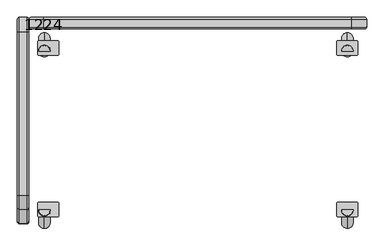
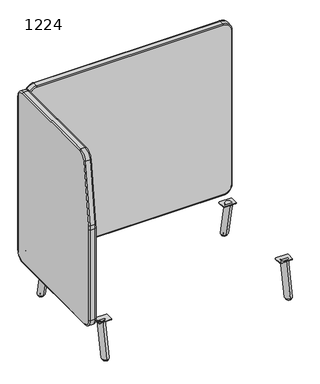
"""IFC4 building model written with IfcOpenShell, lengths in millimetres: furniture geometry, Laguna-Modular-Hideout-ERG : 1224."""

from ifc_helpers import new_model, si_unit, point, frame, frame_2d, origin, place, context, project, spatial, polyline, circle_curve, ellipse_curve, trimmed, segment, composite_curve, outline, extrude, source, transform, mapped, element, save
from ifc_brep_helpers import plane_surface, cylinder_surface, revolved_surface, advanced_brep


def furniture_1224_862a0234(model_context):
    return source(origin(), model_context, "Body", "SolidModel", [
        advanced_brep(
        [(-4630.9921763, 1222.7258502, 203.2), (-4630.9921763, 1272.2558502, 252.73), (-4624.6421763, 1265.9058502, 252.73), (-4624.6421763, 1222.7258502, 209.55), (-4656.3921763, 1222.7258502, 203.2), (-4656.3921763, 1272.2558502, 252.73), (-4662.7421763, 1222.7258502, 209.55), (-4662.7421763, 1265.9058502, 252.73), (-4624.6421763, 638.2210502, 209.55), (-4630.9921763, 638.2210502, 203.2), (-4656.3921763, 638.2210502, 203.2), (-4662.7421763, 638.2210502, 209.55), (-4630.9921763, 683.6397434, 1189.5820944), (-4624.6421763, 683.6397434, 1183.2320944), (-4624.6421763, 1222.7258502, 1183.2320944), (-4630.9921763, 1222.7258502, 1189.5820944), (-4656.3921763, 1222.7258502, 1189.5820944), (-4656.3921763, 683.6397434, 1189.5820944), (-4662.7421763, 1222.7258502, 1183.2320944), (-4662.7421763, 683.6397434, 1183.2320944), (-4624.6421763, 1265.9058502, 1140.0520944), (-4630.9921763, 1272.2558502, 1140.0520944), (-4656.3921763, 1272.2558502, 1140.0520944), (-4662.7421763, 1265.9058502, 1140.0520944), (-4624.6421763, 595.9808502, 251.7902), (-4630.9921763, 589.6308502, 251.7902), (-4656.3921763, 589.6308502, 251.7902), (-4662.7421763, 595.9808502, 251.7902), (-4624.6421763, 595.9808502, 775.6528209), (-4630.9921763, 589.6308502, 775.6528209), (-4656.3921763, 589.6308502, 775.6528209), (-4662.7421763, 595.9808502, 775.6528209), (-4630.9921763, 591.2362338, 800.9039123), (-4624.6421763, 597.5351069, 800.0997374), (-4624.6421763, 641.7396393, 1146.3412658), (-4630.9921763, 635.4407662, 1147.1454407), (-4656.3921763, 635.4407662, 1147.1454407), (-4656.3921763, 591.2362338, 800.9039123), (-4662.7421763, 641.7396393, 1146.3412658), (-4662.7421763, 597.5351069, 800.0997374)],
        [
            (0, 1, circle_curve(frame((-4630.9921763, 1222.7258502, 252.73), z_axis=(1.0, 0.0, 0.0), x_axis=(0.0, 1.0, 0.0)), 49.53)),
            (1, 2, circle_curve(frame((-4630.9921763, 1265.9058502, 252.73), z_axis=(0.0, 0.0, -1.0), x_axis=(0.0, 1.0, 0.0)), 6.35)),
            (2, 3, circle_curve(frame((-4624.6421763, 1222.7258502, 252.73), z_axis=(-1.0, 0.0, 0.0), x_axis=(0.0, 1.0, 0.0)), 43.18)),
            (3, 0, circle_curve(frame((-4630.9921763, 1222.7258502, 209.55), z_axis=(0.0, 1.0, 0.0), x_axis=(0.0, 0.0, -1.0)), 6.35)),
            (0, 4),
            (4, 5, circle_curve(frame((-4656.3921763, 1222.7258502, 252.73), z_axis=(1.0, 0.0, 0.0), x_axis=(0.0, 1.0, 0.0)), 49.53)),
            (5, 1),
            (4, 6, circle_curve(frame((-4656.3921763, 1222.7258502, 209.55), z_axis=(0.0, 1.0, 0.0), x_axis=(0.0, 0.0, -1.0)), 6.35)),
            (6, 7, circle_curve(frame((-4662.7421763, 1222.7258502, 252.73), z_axis=(1.0, 0.0, 0.0), x_axis=(0.0, 1.0, 0.0)), 43.18)),
            (7, 5, circle_curve(frame((-4656.3921763, 1265.9058502, 252.73), z_axis=(0.0, 0.0, -1.0), x_axis=(0.0, 1.0, 0.0)), 6.35)),
            (3, 8),
            (8, 9, circle_curve(frame((-4630.9921763, 638.2210502, 209.55), z_axis=(0.0, 1.0, 0.0), x_axis=(0.0, 0.0, -1.0)), 6.35)),
            (9, 0),
            (9, 10),
            (10, 4),
            (10, 11, circle_curve(frame((-4656.3921763, 638.2210502, 209.55), z_axis=(0.0, 1.0, 0.0), x_axis=(0.0, 0.0, -1.0)), 6.35)),
            (11, 6),
            (12, 13, circle_curve(frame((-4630.9921763, 683.6397434, 1183.2320944), z_axis=(0.0, 1.0, 0.0), x_axis=(0.0, 0.0, 1.0)), 6.35)),
            (13, 14),
            (14, 15, circle_curve(frame((-4630.9921763, 1222.7258502, 1183.2320944), z_axis=(0.0, -1.0, 0.0), x_axis=(0.0, 0.0, 1.0)), 6.35)),
            (15, 12),
            (15, 16),
            (16, 17),
            (17, 12),
            (16, 18, circle_curve(frame((-4656.3921763, 1222.7258502, 1183.2320944), z_axis=(0.0, -1.0, 0.0), x_axis=(0.0, 0.0, 1.0)), 6.35)),
            (18, 19),
            (19, 17, circle_curve(frame((-4656.3921763, 683.6397434, 1183.2320944), z_axis=(0.0, 1.0, 0.0), x_axis=(0.0, 0.0, 1.0)), 6.35)),
            (14, 20, circle_curve(frame((-4624.6421763, 1222.7258502, 1140.0520944), z_axis=(-1.0, 0.0, 0.0), x_axis=(0.0, 0.0, 1.0)), 43.18)),
            (20, 21, circle_curve(frame((-4630.9921763, 1265.9058502, 1140.0520944), z_axis=(0.0, 0.0, 1.0), x_axis=(0.0, 1.0, 0.0)), 6.35)),
            (21, 15, circle_curve(frame((-4630.9921763, 1222.7258502, 1140.0520944), z_axis=(1.0, 0.0, 0.0), x_axis=(0.0, 0.0, 1.0)), 49.53)),
            (21, 22),
            (22, 16, circle_curve(frame((-4656.3921763, 1222.7258502, 1140.0520944), z_axis=(1.0, 0.0, 0.0), x_axis=(0.0, 0.0, 1.0)), 49.53)),
            (22, 23, circle_curve(frame((-4656.3921763, 1265.9058502, 1140.0520944), z_axis=(0.0, 0.0, 1.0), x_axis=(0.0, 1.0, 0.0)), 6.35)),
            (23, 18, circle_curve(frame((-4662.7421763, 1222.7258502, 1140.0520944), z_axis=(1.0, 0.0, 0.0), x_axis=(0.0, 0.0, 1.0)), 43.18)),
            (1, 21),
            (20, 2),
            (5, 22),
            (7, 23),
            (8, 24, circle_curve(frame((-4624.6421763, 638.2210502, 251.7902), z_axis=(-1.0, 0.0, 0.0), x_axis=(0.0, 0.0, -1.0)), 42.2402)),
            (24, 25, circle_curve(frame((-4630.9921763, 595.9808502, 251.7902), z_axis=(0.0, 0.0, -1.0), x_axis=(0.0, -1.0, 0.0)), 6.35)),
            (25, 9, circle_curve(frame((-4630.9921763, 638.2210502, 251.7902), z_axis=(1.0, 0.0, 0.0), x_axis=(0.0, 0.0, -1.0)), 48.5902)),
            (25, 26),
            (26, 10, circle_curve(frame((-4656.3921763, 638.2210502, 251.7902), z_axis=(1.0, 0.0, 0.0), x_axis=(0.0, 0.0, -1.0)), 48.5902)),
            (26, 27, circle_curve(frame((-4656.3921763, 595.9808502, 251.7902), z_axis=(0.0, 0.0, -1.0), x_axis=(0.0, -1.0, 0.0)), 6.35)),
            (27, 11, circle_curve(frame((-4662.7421763, 638.2210502, 251.7902), z_axis=(1.0, 0.0, 0.0), x_axis=(0.0, 0.0, -1.0)), 42.2402)),
            (24, 28),
            (28, 29, circle_curve(frame((-4630.9921763, 595.9808502, 775.6528209), z_axis=(0.0, 0.0, -1.0), x_axis=(0.0, -1.0, 0.0)), 6.35)),
            (29, 25),
            (29, 30),
            (30, 26),
            (30, 31, circle_curve(frame((-4656.3921763, 595.9808502, 775.6528209), z_axis=(0.0, 0.0, -1.0), x_axis=(0.0, -1.0, 0.0)), 6.35)),
            (31, 27),
            (32, 33, circle_curve(frame((-4630.9921763, 597.5351069, 800.0997374), z_axis=(0.0, 0.12664171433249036, 0.9919485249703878), x_axis=(0.0, -0.9919485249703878, 0.12664171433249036)), 6.35)),
            (33, 34),
            (34, 35, circle_curve(frame((-4630.9921763, 641.7396393, 1146.3412658), z_axis=(0.0, -0.12664171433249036, -0.9919485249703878), x_axis=(0.0, -0.9919485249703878, 0.12664171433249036)), 6.35)),
            (35, 32),
            (35, 36),
            (36, 37),
            (37, 32),
            (36, 38, circle_curve(frame((-4656.3921763, 641.7396393, 1146.3412658), z_axis=(0.0, -0.12664171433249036, -0.9919485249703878), x_axis=(0.0, -0.9919485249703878, 0.12664171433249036)), 6.35)),
            (38, 39),
            (39, 37, circle_curve(frame((-4656.3921763, 597.5351069, 800.0997374), z_axis=(0.0, 0.12664171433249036, 0.9919485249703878), x_axis=(0.0, -0.9919485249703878, 0.12664171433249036)), 6.35)),
            (28, 33, circle_curve(frame((-4624.6421763, 789.0208502, 775.6528209), z_axis=(-1.0, 0.0, 0.0), x_axis=(0.0, -1.0, 0.0)), 193.04)),
            (32, 29, circle_curve(frame((-4630.9921763, 789.0208502, 775.6528209), z_axis=(1.0, 0.0, 0.0), x_axis=(0.0, -1.0, 0.0)), 199.39)),
            (37, 30, circle_curve(frame((-4656.3921763, 789.0208502, 775.6528209), z_axis=(1.0, 0.0, 0.0), x_axis=(0.0, -1.0, 0.0)), 199.39)),
            (39, 31, circle_curve(frame((-4662.7421763, 789.0208502, 775.6528209), z_axis=(1.0, 0.0, 0.0), x_axis=(0.0, -1.0, 0.0)), 193.04)),
            (13, 34, circle_curve(frame((-4624.6421763, 683.6397434, 1140.9918944), z_axis=(1.0, 0.0, 0.0), x_axis=(0.0, -0.9919485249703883, 0.12664171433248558)), 42.2402)),
            (12, 35, circle_curve(frame((-4630.9921763, 683.6397434, 1140.9918944), z_axis=(1.0, 0.0, 0.0), x_axis=(0.0, -0.9919485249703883, 0.12664171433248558)), 48.5902)),
            (17, 36, circle_curve(frame((-4656.3921763, 683.6397434, 1140.9918944), z_axis=(1.0, 0.0, 0.0), x_axis=(0.0, -0.9919485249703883, 0.12664171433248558)), 48.5902)),
            (19, 38, circle_curve(frame((-4662.7421763, 683.6397434, 1140.9918944), z_axis=(1.0, 0.0, 0.0), x_axis=(0.0, -0.9919485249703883, 0.12664171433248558)), 42.2402)),
        ],
        [
            revolved_surface(trimmed(ellipse_curve(frame((-4630.9921763, 1265.9058502, 252.73), z_axis=(0.0, 0.0, 1.0), x_axis=(0.0, 1.0, 0.0)), 6.35, 6.35), [point((-4624.6421763, 1265.9058502, 252.73))], [point((-4630.9921763, 1272.2558502, 252.73))], True, "CARTESIAN"), (-4662.7421763, 1222.7258502, 252.73), (-1.0, 0.0, 0.0)),
            cylinder_surface(frame((-4662.7421763, 1222.7258502, 252.73), z_axis=(-1.0, 0.0, 0.0), x_axis=(0.0, 1.0, 0.0)), 49.53),
            revolved_surface(trimmed(ellipse_curve(frame((-4656.3921763, 1265.9058502, 252.73), z_axis=(0.0, 0.0, 1.0), x_axis=(0.0, 1.0, 0.0)), 6.35, 6.35), [point((-4656.3921763, 1272.2558502, 252.73))], [point((-4662.7421763, 1265.9058502, 252.73))], True, "CARTESIAN"), (-4662.7421763, 1222.7258502, 252.73), (-1.0, 0.0, 0.0)),
            cylinder_surface(frame((-4630.9921763, 1222.7258502, 209.55), z_axis=(0.0, 1.0, 0.0), x_axis=(0.0, 0.0, -1.0)), 6.35),
            plane_surface(frame((-4630.9921763, 1222.7258502, 203.2), z_axis=(0.0, 0.0, -1.0), x_axis=(0.0, -1.0, 0.0))),
            cylinder_surface(frame((-4656.3921763, 1222.7258502, 209.55), z_axis=(0.0, 1.0, 0.0), x_axis=(0.0, 0.0, -1.0)), 6.35),
            cylinder_surface(frame((-4630.9921763, 683.6397434, 1183.2320944), z_axis=(0.0, -1.0, 0.0), x_axis=(0.0, 0.0, 1.0)), 6.35),
            plane_surface(frame((-4630.9921763, 683.6397434, 1189.5820944), z_axis=(0.0, 0.0, 1.0), x_axis=(0.0, 1.0, 0.0))),
            cylinder_surface(frame((-4656.3921763, 683.6397434, 1183.2320944), z_axis=(0.0, -1.0, 0.0), x_axis=(0.0, 0.0, 1.0)), 6.35),
            revolved_surface(trimmed(ellipse_curve(frame((-4630.9921763, 1222.7258502, 1183.2320944), z_axis=(0.0, -1.0, 0.0), x_axis=(0.0, 0.0, 1.0)), 6.35, 6.35), [point((-4624.6421763, 1222.7258502, 1183.2320944))], [point((-4630.9921763, 1222.7258502, 1189.5820944))], True, "CARTESIAN"), (-4662.7421763, 1222.7258502, 1140.0520944), (-1.0, 0.0, 0.0)),
            cylinder_surface(frame((-4662.7421763, 1222.7258502, 1140.0520944), z_axis=(-1.0, 0.0, 0.0), x_axis=(0.0, 0.0, 1.0)), 49.53),
            revolved_surface(trimmed(ellipse_curve(frame((-4656.3921763, 1222.7258502, 1183.2320944), z_axis=(0.0, -1.0, 0.0), x_axis=(0.0, 0.0, 1.0)), 6.35, 6.35), [point((-4656.3921763, 1222.7258502, 1189.5820944))], [point((-4662.7421763, 1222.7258502, 1183.2320944))], True, "CARTESIAN"), (-4662.7421763, 1222.7258502, 1140.0520944), (-1.0, 0.0, 0.0)),
            cylinder_surface(frame((-4630.9921763, 1265.9058502, 1140.0520944), z_axis=(0.0, 0.0, 1.0), x_axis=(0.0, 1.0, 0.0)), 6.35),
            plane_surface(frame((-4630.9921763, 1272.2558502, 1140.0520944), z_axis=(0.0, 1.0, 0.0), x_axis=(0.0, 0.0, -1.0))),
            cylinder_surface(frame((-4656.3921763, 1265.9058502, 1140.0520944), z_axis=(0.0, 0.0, 1.0), x_axis=(0.0, 1.0, 0.0)), 6.35),
            revolved_surface(trimmed(ellipse_curve(frame((-4630.9921763, 638.2210502, 209.55), z_axis=(0.0, 1.0, 0.0), x_axis=(0.0, 0.0, -1.0)), 6.35, 6.35), [point((-4624.6421763, 638.2210502, 209.55))], [point((-4630.9921763, 638.2210502, 203.2))], True, "CARTESIAN"), (-4662.7421763, 638.2210502, 251.7902), (-1.0, 0.0, 0.0)),
            cylinder_surface(frame((-4662.7421763, 638.2210502, 251.7902), z_axis=(-1.0, 0.0, 0.0), x_axis=(0.0, 0.0, -1.0)), 48.5902),
            revolved_surface(trimmed(ellipse_curve(frame((-4656.3921763, 638.2210502, 209.55), z_axis=(0.0, 1.0, 0.0), x_axis=(0.0, 0.0, -1.0)), 6.35, 6.35), [point((-4656.3921763, 638.2210502, 203.2))], [point((-4662.7421763, 638.2210502, 209.55))], True, "CARTESIAN"), (-4662.7421763, 638.2210502, 251.7902), (-1.0, 0.0, 0.0)),
            cylinder_surface(frame((-4630.9921763, 595.9808502, 251.7902), z_axis=(0.0, 0.0, -1.0), x_axis=(0.0, -1.0, 0.0)), 6.35),
            plane_surface(frame((-4630.9921763, 589.6308502, 251.7902), z_axis=(0.0, -1.0, 0.0), x_axis=(0.0, 0.0, 1.0))),
            cylinder_surface(frame((-4656.3921763, 595.9808502, 251.7902), z_axis=(0.0, 0.0, -1.0), x_axis=(0.0, -1.0, 0.0)), 6.35),
            cylinder_surface(frame((-4630.9921763, 597.5351069, 800.0997374), z_axis=(0.0, -0.12664171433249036, -0.9919485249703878), x_axis=(0.0, -0.9919485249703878, 0.12664171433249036)), 6.35),
            plane_surface(frame((-4630.9921763, 591.2362338, 800.9039123), z_axis=(0.0, -0.9919485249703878, 0.1266417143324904), x_axis=(0.0, 0.1266417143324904, 0.9919485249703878))),
            cylinder_surface(frame((-4656.3921763, 597.5351069, 800.0997374), z_axis=(0.0, -0.12664171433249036, -0.9919485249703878), x_axis=(0.0, -0.9919485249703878, 0.12664171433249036)), 6.35),
            revolved_surface(trimmed(ellipse_curve(frame((-4630.9921763, 595.9808502, 775.6528209), z_axis=(0.0, 0.0, -1.0), x_axis=(0.0, -1.0, 0.0)), 6.35, 6.35), [point((-4624.6421763, 595.9808502, 775.6528209))], [point((-4630.9921763, 589.6308502, 775.6528209))], True, "CARTESIAN"), (-4662.7421763, 789.0208502, 775.6528209), (-1.0, 0.0, 0.0)),
            cylinder_surface(frame((-4662.7421763, 789.0208502, 775.6528209), z_axis=(-1.0, 0.0, 0.0), x_axis=(0.0, -1.0, 0.0)), 199.39),
            revolved_surface(trimmed(ellipse_curve(frame((-4656.3921763, 595.9808502, 775.6528209), z_axis=(0.0, 0.0, -1.0), x_axis=(0.0, -1.0, 0.0)), 6.35, 6.35), [point((-4656.3921763, 589.6308502, 775.6528209))], [point((-4662.7421763, 595.9808502, 775.6528209))], True, "CARTESIAN"), (-4662.7421763, 789.0208502, 775.6528209), (-1.0, 0.0, 0.0)),
            plane_surface(frame((-4624.6421763, 683.6397434, 1140.9918944), z_axis=(1.0, 0.0, 0.0), x_axis=(0.0, -0.9919485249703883, 0.12664171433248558))),
            revolved_surface(trimmed(ellipse_curve(frame((-4630.9921763, 641.7396393, 1146.3412658), z_axis=(0.0, -0.12664171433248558, -0.9919485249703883), x_axis=(0.0, -0.9919485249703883, 0.12664171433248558)), 6.35, 6.35), [point((-4624.6421763, 641.7396393, 1146.3412658))], [point((-4630.9921763, 635.4407662, 1147.1454407))], True, "CARTESIAN"), (-4662.7421763, 683.6397434, 1140.9918944), (-1.0, 0.0, 0.0)),
            cylinder_surface(frame((-4662.7421763, 683.6397434, 1140.9918944), z_axis=(-1.0, 0.0, 0.0), x_axis=(0.0, -0.9919485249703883, 0.12664171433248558)), 48.5902),
            revolved_surface(trimmed(ellipse_curve(frame((-4656.3921763, 641.7396393, 1146.3412658), z_axis=(0.0, -0.12664171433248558, -0.9919485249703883), x_axis=(0.0, -0.9919485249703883, 0.12664171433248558)), 6.35, 6.35), [point((-4656.3921763, 635.4407662, 1147.1454407))], [point((-4662.7421763, 641.7396393, 1146.3412658))], True, "CARTESIAN"), (-4662.7421763, 683.6397434, 1140.9918944), (-1.0, 0.0, 0.0)),
            plane_surface(frame((-4662.7421763, 683.6397434, 1140.9918944), z_axis=(-1.0, 0.0, 0.0), x_axis=(0.0, -0.9919485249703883, 0.12664171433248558))),
        ],
        [
            (0, [[1, 2, 3, 4]]),
            (1, [[-1, 5, 6, 7]]),
            (2, [[-6, 8, 9, 10]]),
            (3, [[-4, 11, 12, 13]]),
            (4, [[-5, -13, 14, 15]]),
            (5, [[-8, -15, 16, 17]]),
            (6, [[18, 19, 20, 21]]),
            (7, [[-21, 22, 23, 24]]),
            (8, [[-23, 25, 26, 27]]),
            (9, [[-20, 28, 29, 30]]),
            (10, [[-22, -30, 31, 32]]),
            (11, [[-25, -32, 33, 34]]),
            (12, [[-2, 35, -29, 36]]),
            (13, [[-7, 37, -31, -35]]),
            (14, [[-10, 38, -33, -37]]),
            (15, [[-12, 39, 40, 41]]),
            (16, [[-14, -41, 42, 43]]),
            (17, [[-16, -43, 44, 45]]),
            (18, [[-40, 46, 47, 48]]),
            (19, [[-42, -48, 49, 50]]),
            (20, [[-44, -50, 51, 52]]),
            (21, [[53, 54, 55, 56]]),
            (22, [[-56, 57, 58, 59]]),
            (23, [[-58, 60, 61, 62]]),
            (24, [[-47, 63, -53, 64]]),
            (25, [[-49, -64, -59, 65]]),
            (26, [[-51, -65, -62, 66]]),
            (27, [[-3, -36, -28, -19, 67, -54, -63, -46, -39, -11]]),
            (28, [[-18, 68, -55, -67]]),
            (29, [[-24, 69, -57, -68]]),
            (30, [[-27, 70, -60, -69]]),
            (31, [[-9, -17, -45, -52, -66, -61, -70, -26, -34, -38]]),
        ],
    ),
        advanced_brep(
        [(-3570.5421763, 1179.9236711, 207.1607177), (-3570.5421763, 1142.6562475, 199.2392823), (-3570.5421763, 1182.8462897, 10.16), (-3570.5421763, 1221.7974663, 10.16)],
        [
            (0, 1, circle_curve(frame((-3570.5421763, 1161.2899593, 203.2), z_axis=(0.0, -0.2079116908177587, 0.9781476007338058), x_axis=(0.0, -0.9781476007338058, -0.2079116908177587)), 19.05)),
            (1, 0, circle_curve(frame((-3570.5421763, 1161.2899593, 203.2), z_axis=(0.0, -0.2079116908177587, 0.9781476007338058), x_axis=(0.0, -0.9781476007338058, -0.2079116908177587)), 19.05)),
            (1, 2),
            (2, 3, ellipse_curve(frame((-3570.5421763, 1202.321878, 10.16), z_axis=(0.0, 0.0, 1.0), x_axis=(0.0, -0.9999999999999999, 0.0)), 19.4755883, 19.05)),
            (3, 0),
            (3, 2, ellipse_curve(frame((-3570.5421763, 1202.321878, 10.16), z_axis=(0.0, 0.0, 1.0), x_axis=(0.0, -0.9999999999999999, 0.0)), 19.4755883, 19.05)),
        ],
        [
            plane_surface(frame((-3570.5421763, 1161.2899593, 203.2), z_axis=(0.0, -0.2079116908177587, 0.9781476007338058), x_axis=(-1.0, 0.0, 0.0))),
            cylinder_surface(frame((-3570.5421763, 1161.2899593, 203.2), z_axis=(0.0, -0.2079116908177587, 0.9781476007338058), x_axis=(0.0, -0.9781476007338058, -0.2079116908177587)), 19.05),
            plane_surface(frame((-4662.7421763, 1308.7683502, 10.16), z_axis=(0.0, 0.0, -1.0), x_axis=(-1.0, 0.0, 0.0))),
        ],
        [
            (0, [[1, 2]]),
            (1, [[-2, 3, 4, 5]]),
            (1, [[-1, -5, 6, -3]]),
            (2, [[-4, -6]]),
        ],
    ),
        advanced_brep(
        [(-3570.5421763, 652.9523278, 199.2392823), (-3570.5421763, 615.6849042, 207.1607177), (-3570.5421763, 612.7622857, 10.16), (-3570.5421763, 573.811109, 10.16)],
        [
            (0, 1, circle_curve(frame((-3570.5421763, 634.318616, 203.2), z_axis=(0.0, 0.20791169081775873, 0.9781476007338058), x_axis=(0.0, -0.9781476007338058, 0.20791169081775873)), 19.05)),
            (1, 0, circle_curve(frame((-3570.5421763, 634.318616, 203.2), z_axis=(0.0, 0.20791169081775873, 0.9781476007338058), x_axis=(0.0, -0.9781476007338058, 0.20791169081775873)), 19.05)),
            (0, 2),
            (2, 3, ellipse_curve(frame((-3570.5421763, 593.2866973, 10.16), z_axis=(0.0, 0.0, 1.0), x_axis=(0.0, 1.0, 0.0)), 19.4755883, 19.05)),
            (3, 1),
            (3, 2, ellipse_curve(frame((-3570.5421763, 593.2866973, 10.16), z_axis=(0.0, 0.0, 1.0), x_axis=(0.0, 1.0, 0.0)), 19.4755883, 19.05)),
        ],
        [
            plane_surface(frame((-3570.5421763, 634.318616, 203.2), z_axis=(0.0, 0.20791169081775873, 0.9781476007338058), x_axis=(-1.0, 0.0, 0.0))),
            cylinder_surface(frame((-3570.5421763, 634.318616, 203.2), z_axis=(0.0, 0.20791169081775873, 0.9781476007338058), x_axis=(0.0, -0.9781476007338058, 0.20791169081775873)), 19.05),
            plane_surface(frame((-4662.7421763, 1308.7683502, 10.16), z_axis=(0.0, 0.0, -1.0), x_axis=(-1.0, 0.0, 0.0))),
        ],
        [
            (0, [[1, 2]]),
            (1, [[-1, 3, 4, 5]]),
            (1, [[-2, -5, 6, -3]]),
            (2, [[-4, -6]]),
        ],
    ),
        advanced_brep(
        [(-4573.8421763, 1142.6562475, 199.2392823), (-4573.8421763, 1179.9236711, 207.1607177), (-4573.8421763, 1221.7974663, 10.16), (-4573.8421763, 1182.8462897, 10.16)],
        [
            (0, 1, circle_curve(frame((-4573.8421763, 1161.2899593, 203.2), z_axis=(0.0, -0.20791169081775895, 0.9781476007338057), x_axis=(0.0, 0.9781476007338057, 0.20791169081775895)), 19.05)),
            (1, 0, circle_curve(frame((-4573.8421763, 1161.2899593, 203.2), z_axis=(0.0, -0.20791169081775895, 0.9781476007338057), x_axis=(0.0, 0.9781476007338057, 0.20791169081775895)), 19.05)),
            (1, 2),
            (2, 3, ellipse_curve(frame((-4573.8421763, 1202.321878, 10.16), z_axis=(0.0, 0.0, 1.0), x_axis=(0.0, -1.0, 0.0)), 19.4755883, 19.05)),
            (3, 0),
            (3, 2, ellipse_curve(frame((-4573.8421763, 1202.321878, 10.16), z_axis=(0.0, 0.0, 1.0), x_axis=(0.0, -1.0, 0.0)), 19.4755883, 19.05)),
        ],
        [
            plane_surface(frame((-4561.1421763, 1161.2899593, 203.2), z_axis=(0.0, -0.20791169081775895, 0.9781476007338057), x_axis=(1.0, 0.0, 0.0))),
            cylinder_surface(frame((-4573.8421763, 1161.2899593, 203.2), z_axis=(0.0, -0.20791169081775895, 0.9781476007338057), x_axis=(0.0, 0.9781476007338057, 0.20791169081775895)), 19.05),
            plane_surface(frame((-4662.7421763, 1308.7683502, 10.16), z_axis=(0.0, 0.0, -1.0), x_axis=(-1.0, 0.0, 0.0))),
        ],
        [
            (0, [[1, 2]]),
            (1, [[-2, 3, 4, 5]]),
            (1, [[-1, -5, 6, -3]]),
            (2, [[-4, -6]]),
        ],
    ),
        advanced_brep(
        [(-4573.8421763, 615.6849042, 207.1607177), (-4573.8421763, 652.9523278, 199.2392823), (-4573.8421763, 573.811109, 10.16), (-4573.8421763, 612.7622857, 10.16)],
        [
            (0, 1, circle_curve(frame((-4573.8421763, 634.318616, 203.2), z_axis=(0.0, 0.20791169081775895, 0.9781476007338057), x_axis=(0.0, 0.9781476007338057, -0.20791169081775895)), 19.05)),
            (1, 0, circle_curve(frame((-4573.8421763, 634.318616, 203.2), z_axis=(0.0, 0.20791169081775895, 0.9781476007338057), x_axis=(0.0, 0.9781476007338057, -0.20791169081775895)), 19.05)),
            (0, 2),
            (2, 3, ellipse_curve(frame((-4573.8421763, 593.2866973, 10.16), z_axis=(0.0, 0.0, 1.0), x_axis=(0.0, 1.0, 0.0)), 19.4755883, 19.05)),
            (3, 1),
            (3, 2, ellipse_curve(frame((-4573.8421763, 593.2866973, 10.16), z_axis=(0.0, 0.0, 1.0), x_axis=(0.0, 1.0, 0.0)), 19.4755883, 19.05)),
        ],
        [
            plane_surface(frame((-4561.1421763, 634.318616, 203.2), z_axis=(0.0, 0.20791169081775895, 0.9781476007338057), x_axis=(1.0, 0.0, 0.0))),
            cylinder_surface(frame((-4573.8421763, 634.318616, 203.2), z_axis=(0.0, 0.20791169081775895, 0.9781476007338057), x_axis=(0.0, 0.9781476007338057, -0.20791169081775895)), 19.05),
            plane_surface(frame((-4662.7421763, 1308.7683502, 10.16), z_axis=(0.0, 0.0, -1.0), x_axis=(-1.0, 0.0, 0.0))),
        ],
        [
            (0, [[1, 2]]),
            (1, [[-1, 3, 4, 5]]),
            (1, [[-2, -5, 6, -3]]),
            (2, [[-4, -6]]),
        ],
    ),
        extrude(outline(composite_curve([segment(polyline([(-4531.2971763, 611.8558502), (-4590.9871763, 611.8558502)]), True, "CONTINUOUS"), segment(trimmed(circle_curve(frame_2d((-4590.9871763, 616.9358502)), 5.08), [point((-4590.9871763, 611.8558502))], [point((-4596.0671763, 616.9358502))], False, "CARTESIAN"), True, "CONTINUOUS"), segment(polyline([(-4596.0671763, 616.9358502), (-4596.0671763, 656.3058502)]), True, "CONTINUOUS"), segment(trimmed(circle_curve(frame_2d((-4590.9871763, 656.3058502)), 5.08), [point((-4596.0671763, 656.3058502))], [point((-4590.9871763, 661.3858502))], False, "CARTESIAN"), True, "CONTINUOUS"), segment(polyline([(-4590.9871763, 661.3858502), (-4531.2971763, 661.3858502)]), True, "CONTINUOUS"), segment(trimmed(circle_curve(frame_2d((-4531.2971763, 656.3058502)), 5.08), [point((-4531.2971763, 661.3858502))], [point((-4526.2171763, 656.3058502))], False, "CARTESIAN"), True, "CONTINUOUS"), segment(polyline([(-4526.2171763, 656.3058502), (-4526.2171763, 616.9358502)]), True, "CONTINUOUS"), segment(trimmed(circle_curve(frame_2d((-4531.2971763, 616.9358502)), 5.08), [point((-4526.2171763, 616.9358502))], [point((-4531.2971763, 611.8558502))], False, "CARTESIAN"), True, "CONTINUOUS")], self_intersect=False)), frame((0.0, 0.0, 200.66), z_axis=(0.0, 0.0, 1.0), x_axis=(1.0, 0.0, 0.0)), (0.0, 0.0, 1.0), 2.54),
        extrude(outline(composite_curve([segment(trimmed(circle_curve(frame_2d((-4531.2971763, 1190.9758502)), 5.08), [point((-4531.2971763, 1196.0558502))], [point((-4526.2171763, 1190.9758502))], False, "CARTESIAN"), True, "CONTINUOUS"), segment(polyline([(-4526.2171763, 1190.9758502), (-4526.2171763, 1151.6058502)]), True, "CONTINUOUS"), segment(trimmed(circle_curve(frame_2d((-4531.2971763, 1151.6058502)), 5.08), [point((-4526.2171763, 1151.6058502))], [point((-4531.2971763, 1146.5258502))], False, "CARTESIAN"), True, "CONTINUOUS"), segment(polyline([(-4531.2971763, 1146.5258502), (-4590.9871763, 1146.5258502)]), True, "CONTINUOUS"), segment(trimmed(circle_curve(frame_2d((-4590.9871763, 1151.6058502)), 5.08), [point((-4590.9871763, 1146.5258502))], [point((-4596.0671763, 1151.6058502))], False, "CARTESIAN"), True, "CONTINUOUS"), segment(polyline([(-4596.0671763, 1151.6058502), (-4596.0671763, 1190.9758502)]), True, "CONTINUOUS"), segment(trimmed(circle_curve(frame_2d((-4590.9871763, 1190.9758502)), 5.08), [point((-4596.0671763, 1190.9758502))], [point((-4590.9871763, 1196.0558502))], False, "CARTESIAN"), True, "CONTINUOUS"), segment(polyline([(-4590.9871763, 1196.0558502), (-4531.2971763, 1196.0558502)]), True, "CONTINUOUS")], self_intersect=False)), frame((0.0, 0.0, 200.66), z_axis=(0.0, 0.0, 1.0), x_axis=(1.0, 0.0, 0.0)), (0.0, 0.0, 1.0), 2.54),
        extrude(outline(composite_curve([segment(trimmed(circle_curve(frame_2d((-3600.386922, 616.9358502)), 5.08), [point((-3600.386922, 611.8558502))], [point((-3605.466922, 616.9358502))], False, "CARTESIAN"), True, "CONTINUOUS"), segment(polyline([(-3605.466922, 616.9358502), (-3605.466922, 656.3058502)]), True, "CONTINUOUS"), segment(trimmed(circle_curve(frame_2d((-3600.386922, 656.3058502)), 5.08), [point((-3605.466922, 656.3058502))], [point((-3600.386922, 661.3858502))], False, "CARTESIAN"), True, "CONTINUOUS"), segment(polyline([(-3600.386922, 661.3858502), (-3540.696922, 661.3858502)]), True, "CONTINUOUS"), segment(trimmed(circle_curve(frame_2d((-3540.696922, 656.3058502)), 5.08), [point((-3540.696922, 661.3858502))], [point((-3535.616922, 656.3058502))], False, "CARTESIAN"), True, "CONTINUOUS"), segment(polyline([(-3535.616922, 656.3058502), (-3535.616922, 616.9358502)]), True, "CONTINUOUS"), segment(trimmed(circle_curve(frame_2d((-3540.696922, 616.9358502)), 5.08), [point((-3535.616922, 616.9358502))], [point((-3540.696922, 611.8558502))], False, "CARTESIAN"), True, "CONTINUOUS"), segment(polyline([(-3540.696922, 611.8558502), (-3600.386922, 611.8558502)]), True, "CONTINUOUS")], self_intersect=False)), frame((0.0, 0.0, 200.66), z_axis=(0.0, 0.0, 1.0), x_axis=(1.0, 0.0, 0.0)), (0.0, 0.0, 1.0), 2.54),
        extrude(outline(composite_curve([segment(polyline([(-3600.386922, 1196.0558502), (-3540.696922, 1196.0558502)]), True, "CONTINUOUS"), segment(trimmed(circle_curve(frame_2d((-3540.696922, 1190.9758502)), 5.08), [point((-3540.696922, 1196.0558502))], [point((-3535.616922, 1190.9758502))], False, "CARTESIAN"), True, "CONTINUOUS"), segment(polyline([(-3535.616922, 1190.9758502), (-3535.616922, 1151.6058502)]), True, "CONTINUOUS"), segment(trimmed(circle_curve(frame_2d((-3540.696922, 1151.6058502)), 5.08), [point((-3535.616922, 1151.6058502))], [point((-3540.696922, 1146.5258502))], False, "CARTESIAN"), True, "CONTINUOUS"), segment(polyline([(-3540.696922, 1146.5258502), (-3600.386922, 1146.5258502)]), True, "CONTINUOUS"), segment(trimmed(circle_curve(frame_2d((-3600.386922, 1151.6058502)), 5.08), [point((-3600.386922, 1146.5258502))], [point((-3605.466922, 1151.6058502))], False, "CARTESIAN"), True, "CONTINUOUS"), segment(polyline([(-3605.466922, 1151.6058502), (-3605.466922, 1190.9758502)]), True, "CONTINUOUS"), segment(trimmed(circle_curve(frame_2d((-3600.386922, 1190.9758502)), 5.08), [point((-3605.466922, 1190.9758502))], [point((-3600.386922, 1196.0558502))], False, "CARTESIAN"), True, "CONTINUOUS")], self_intersect=False)), frame((0.0, 0.0, 200.66), z_axis=(0.0, 0.0, 1.0), x_axis=(1.0, 0.0, 0.0)), (0.0, 0.0, 1.0), 2.54),
        advanced_brep(
        [(-3570.5421763, 1203.5841717, 10.16), (-3570.5421763, 1199.3411235, 10.16), (-3570.5421763, 1207.8272198, 10.16), (-3570.5421763, 1217.6625251, 0.0), (-3570.5421763, 1189.5058182, 0.0), (-3570.5421763, 1203.5841717, 0.0), (-3570.5421763, 1217.6625251, 3.9615026), (-3570.5421763, 1189.5058182, 3.9615026), (-3570.5421763, 1207.8272198, 3.9615026), (-3570.5421763, 1199.3411235, 3.9615026)],
        [
            (0, 1),
            (1, 2, circle_curve(frame((-3570.5421763, 1203.5841717, 10.16), z_axis=(0.0, 0.0, 1.0), x_axis=(0.0, -1.0, 0.0)), 4.2430482)),
            (2, 0),
            (2, 1, circle_curve(frame((-3570.5421763, 1203.5841717, 10.16), z_axis=(0.0, 0.0, 1.0), x_axis=(0.0, -1.0, 0.0)), 4.2430482)),
            (3, 4, circle_curve(frame((-3570.5421763, 1203.5841717, 0.0), z_axis=(0.0, 0.0, -1.0), x_axis=(0.0, -1.0, 0.0)), 14.0783534)),
            (4, 5),
            (5, 3),
            (4, 3, circle_curve(frame((-3570.5421763, 1203.5841717, 0.0), z_axis=(0.0, 0.0, -1.0), x_axis=(0.0, -1.0, 0.0)), 14.0783534)),
            (6, 7, circle_curve(frame((-3570.5421763, 1203.5841717, 3.9615026), z_axis=(0.0, 0.0, -1.0), x_axis=(0.0, -1.0, 0.0)), 14.0783534)),
            (7, 4),
            (3, 6),
            (7, 6, circle_curve(frame((-3570.5421763, 1203.5841717, 3.9615026), z_axis=(0.0, 0.0, -1.0), x_axis=(0.0, -1.0, 0.0)), 14.0783534)),
            (8, 9, circle_curve(frame((-3570.5421763, 1203.5841717, 3.9615026), z_axis=(0.0, 0.0, -1.0), x_axis=(0.0, -1.0, 0.0)), 4.2430482)),
            (9, 7),
            (6, 8),
            (9, 8, circle_curve(frame((-3570.5421763, 1203.5841717, 3.9615026), z_axis=(0.0, 0.0, -1.0), x_axis=(0.0, -1.0, 0.0)), 4.2430482)),
            (1, 9),
            (8, 2),
        ],
        [
            plane_surface(frame((-3570.5421763, 1203.5841717, 10.16), z_axis=(0.0, 0.0, 1.0), x_axis=(0.0, -1.0, 0.0))),
            plane_surface(frame((-3570.5421763, 1203.5841717, 0.0), z_axis=(0.0, 0.0, -1.0), x_axis=(0.0, -1.0, 0.0))),
            cylinder_surface(frame((-3570.5421763, 1203.5841717, 10.16), z_axis=(0.0, 0.0, 1.0), x_axis=(0.0, -1.0, 0.0)), 14.0783534),
            plane_surface(frame((-3570.5421763, 1203.5841717, 3.9615026), z_axis=(0.0, 0.0, 1.0), x_axis=(0.0, -1.0, 0.0))),
            cylinder_surface(frame((-3570.5421763, 1203.5841717, 10.16), z_axis=(0.0, 0.0, 1.0), x_axis=(0.0, -1.0, 0.0)), 4.2430482),
        ],
        [
            (0, [[1, 2, 3]]),
            (0, [[-3, 4, -1]]),
            (1, [[5, 6, 7]]),
            (1, [[8, -7, -6]]),
            (2, [[9, 10, -5, 11]]),
            (2, [[12, -11, -8, -10]]),
            (3, [[13, 14, -9, 15]]),
            (3, [[16, -15, -12, -14]]),
            (4, [[-2, 17, -13, 18]]),
            (4, [[-4, -18, -16, -17]]),
        ],
    ),
        advanced_brep(
        [(-4573.8421763, 1207.8272198, 10.16), (-4573.8421763, 1199.3411235, 10.16), (-4573.8421763, 1203.5841717, 10.16), (-4573.8421763, 1203.5841717, 0.0), (-4573.8421763, 1189.5058182, 0.0), (-4573.8421763, 1217.6625251, 0.0), (-4573.8421763, 1189.5058182, 3.9615026), (-4573.8421763, 1217.6625251, 3.9615026), (-4573.8421763, 1199.3411235, 3.9615026), (-4573.8421763, 1207.8272198, 3.9615026)],
        [
            (0, 1, circle_curve(frame((-4573.8421763, 1203.5841717, 10.16), z_axis=(0.0, 0.0, 1.0), x_axis=(0.0, -1.0, 0.0)), 4.2430482)),
            (1, 2),
            (2, 0),
            (1, 0, circle_curve(frame((-4573.8421763, 1203.5841717, 10.16), z_axis=(0.0, 0.0, 1.0), x_axis=(0.0, -1.0, 0.0)), 4.2430482)),
            (3, 4),
            (4, 5, circle_curve(frame((-4573.8421763, 1203.5841717, 0.0), z_axis=(0.0, 0.0, -1.0), x_axis=(0.0, -1.0, 0.0)), 14.0783534)),
            (5, 3),
            (5, 4, circle_curve(frame((-4573.8421763, 1203.5841717, 0.0), z_axis=(0.0, 0.0, -1.0), x_axis=(0.0, -1.0, 0.0)), 14.0783534)),
            (4, 6),
            (6, 7, circle_curve(frame((-4573.8421763, 1203.5841717, 3.9615026), z_axis=(0.0, 0.0, -1.0), x_axis=(0.0, -1.0, 0.0)), 14.0783534)),
            (7, 5),
            (7, 6, circle_curve(frame((-4573.8421763, 1203.5841717, 3.9615026), z_axis=(0.0, 0.0, -1.0), x_axis=(0.0, -1.0, 0.0)), 14.0783534)),
            (6, 8),
            (8, 9, circle_curve(frame((-4573.8421763, 1203.5841717, 3.9615026), z_axis=(0.0, 0.0, -1.0), x_axis=(0.0, -1.0, 0.0)), 4.2430482)),
            (9, 7),
            (9, 8, circle_curve(frame((-4573.8421763, 1203.5841717, 3.9615026), z_axis=(0.0, 0.0, -1.0), x_axis=(0.0, -1.0, 0.0)), 4.2430482)),
            (8, 1),
            (0, 9),
        ],
        [
            plane_surface(frame((-4573.8421763, 1203.5841717, 10.16), z_axis=(0.0, 0.0, 1.0), x_axis=(0.0, -1.0, 0.0))),
            plane_surface(frame((-4573.8421763, 1203.5841717, 0.0), z_axis=(0.0, 0.0, -1.0), x_axis=(0.0, -1.0, 0.0))),
            cylinder_surface(frame((-4573.8421763, 1203.5841717, 10.16), z_axis=(0.0, 0.0, -1.0), x_axis=(0.0, -1.0, 0.0)), 14.0783534),
            plane_surface(frame((-4573.8421763, 1203.5841717, 3.9615026), z_axis=(0.0, 0.0, 1.0), x_axis=(0.0, -1.0, 0.0))),
            cylinder_surface(frame((-4573.8421763, 1203.5841717, 10.16), z_axis=(0.0, 0.0, -1.0), x_axis=(0.0, -1.0, 0.0)), 4.2430482),
        ],
        [
            (0, [[1, 2, 3]]),
            (0, [[4, -3, -2]]),
            (1, [[5, 6, 7]]),
            (1, [[-7, 8, -5]]),
            (2, [[-6, 9, 10, 11]]),
            (2, [[-8, -11, 12, -9]]),
            (3, [[-10, 13, 14, 15]]),
            (3, [[-12, -15, 16, -13]]),
            (4, [[-14, 17, -1, 18]]),
            (4, [[-16, -18, -4, -17]]),
        ],
    ),
        advanced_brep(
        [(-3570.5421763, 587.7813555, 10.16), (-3570.5421763, 596.2674518, 10.16), (-3570.5421763, 592.0244037, 10.16), (-3570.5421763, 592.0244037, 0.0), (-3570.5421763, 606.1027571, 0.0), (-3570.5421763, 577.9460502, 0.0), (-3570.5421763, 606.1027571, 3.9615026), (-3570.5421763, 577.9460502, 3.9615026), (-3570.5421763, 596.2674518, 3.9615026), (-3570.5421763, 587.7813555, 3.9615026)],
        [
            (0, 1, circle_curve(frame((-3570.5421763, 592.0244037, 10.16), z_axis=(0.0, 0.0, 1.0), x_axis=(0.0, 1.0, 0.0)), 4.2430482)),
            (1, 2),
            (2, 0),
            (1, 0, circle_curve(frame((-3570.5421763, 592.0244037, 10.16), z_axis=(0.0, 0.0, 1.0), x_axis=(0.0, 1.0, 0.0)), 4.2430482)),
            (3, 4),
            (4, 5, circle_curve(frame((-3570.5421763, 592.0244037, 0.0), z_axis=(0.0, 0.0, -1.0), x_axis=(0.0, 1.0, 0.0)), 14.0783534)),
            (5, 3),
            (5, 4, circle_curve(frame((-3570.5421763, 592.0244037, 0.0), z_axis=(0.0, 0.0, -1.0), x_axis=(0.0, 1.0, 0.0)), 14.0783534)),
            (4, 6),
            (6, 7, circle_curve(frame((-3570.5421763, 592.0244037, 3.9615026), z_axis=(0.0, 0.0, -1.0), x_axis=(0.0, 1.0, 0.0)), 14.0783534)),
            (7, 5),
            (7, 6, circle_curve(frame((-3570.5421763, 592.0244037, 3.9615026), z_axis=(0.0, 0.0, -1.0), x_axis=(0.0, 1.0, 0.0)), 14.0783534)),
            (6, 8),
            (8, 9, circle_curve(frame((-3570.5421763, 592.0244037, 3.9615026), z_axis=(0.0, 0.0, -1.0), x_axis=(0.0, 1.0, 0.0)), 4.2430482)),
            (9, 7),
            (9, 8, circle_curve(frame((-3570.5421763, 592.0244037, 3.9615026), z_axis=(0.0, 0.0, -1.0), x_axis=(0.0, 1.0, 0.0)), 4.2430482)),
            (8, 1),
            (0, 9),
        ],
        [
            plane_surface(frame((-3570.5421763, 592.0244037, 10.16), z_axis=(0.0, 0.0, 1.0), x_axis=(0.0, 1.0, 0.0))),
            plane_surface(frame((-3570.5421763, 592.0244037, 0.0), z_axis=(0.0, 0.0, -1.0), x_axis=(0.0, 1.0, 0.0))),
            cylinder_surface(frame((-3570.5421763, 592.0244037, 10.16), z_axis=(0.0, 0.0, -1.0), x_axis=(0.0, 1.0, 0.0)), 14.0783534),
            plane_surface(frame((-3570.5421763, 592.0244037, 3.9615026), z_axis=(0.0, 0.0, 1.0), x_axis=(0.0, 1.0, 0.0))),
            cylinder_surface(frame((-3570.5421763, 592.0244037, 10.16), z_axis=(0.0, 0.0, -1.0), x_axis=(0.0, 1.0, 0.0)), 4.2430482),
        ],
        [
            (0, [[1, 2, 3]]),
            (0, [[4, -3, -2]]),
            (1, [[5, 6, 7]]),
            (1, [[-7, 8, -5]]),
            (2, [[-6, 9, 10, 11]]),
            (2, [[-8, -11, 12, -9]]),
            (3, [[-10, 13, 14, 15]]),
            (3, [[-12, -15, 16, -13]]),
            (4, [[-14, 17, -1, 18]]),
            (4, [[-16, -18, -4, -17]]),
        ],
    ),
        advanced_brep(
        [(-4573.8421763, 592.0244037, 10.16), (-4573.8421763, 596.2674518, 10.16), (-4573.8421763, 587.7813555, 10.16), (-4573.8421763, 577.9460502, 0.0), (-4573.8421763, 606.1027571, 0.0), (-4573.8421763, 592.0244037, 0.0), (-4573.8421763, 577.9460502, 3.9615026), (-4573.8421763, 606.1027571, 3.9615026), (-4573.8421763, 587.7813555, 3.9615026), (-4573.8421763, 596.2674518, 3.9615026)],
        [
            (0, 1),
            (1, 2, circle_curve(frame((-4573.8421763, 592.0244037, 10.16), z_axis=(0.0, 0.0, 1.0), x_axis=(0.0, 1.0, 0.0)), 4.2430482)),
            (2, 0),
            (2, 1, circle_curve(frame((-4573.8421763, 592.0244037, 10.16), z_axis=(0.0, 0.0, 1.0), x_axis=(0.0, 1.0, 0.0)), 4.2430482)),
            (3, 4, circle_curve(frame((-4573.8421763, 592.0244037, 0.0), z_axis=(0.0, 0.0, -1.0), x_axis=(0.0, 1.0, 0.0)), 14.0783534)),
            (4, 5),
            (5, 3),
            (4, 3, circle_curve(frame((-4573.8421763, 592.0244037, 0.0), z_axis=(0.0, 0.0, -1.0), x_axis=(0.0, 1.0, 0.0)), 14.0783534)),
            (6, 7, circle_curve(frame((-4573.8421763, 592.0244037, 3.9615026), z_axis=(0.0, 0.0, -1.0), x_axis=(0.0, 1.0, 0.0)), 14.0783534)),
            (7, 4),
            (3, 6),
            (7, 6, circle_curve(frame((-4573.8421763, 592.0244037, 3.9615026), z_axis=(0.0, 0.0, -1.0), x_axis=(0.0, 1.0, 0.0)), 14.0783534)),
            (8, 9, circle_curve(frame((-4573.8421763, 592.0244037, 3.9615026), z_axis=(0.0, 0.0, -1.0), x_axis=(0.0, 1.0, 0.0)), 4.2430482)),
            (9, 7),
            (6, 8),
            (9, 8, circle_curve(frame((-4573.8421763, 592.0244037, 3.9615026), z_axis=(0.0, 0.0, -1.0), x_axis=(0.0, 1.0, 0.0)), 4.2430482)),
            (1, 9),
            (8, 2),
        ],
        [
            plane_surface(frame((-4573.8421763, 592.0244037, 10.16), z_axis=(0.0, 0.0, 1.0), x_axis=(0.0, 1.0, 0.0))),
            plane_surface(frame((-4573.8421763, 592.0244037, 0.0), z_axis=(0.0, 0.0, -1.0), x_axis=(0.0, 1.0, 0.0))),
            cylinder_surface(frame((-4573.8421763, 592.0244037, 10.16), z_axis=(0.0, 0.0, 1.0), x_axis=(0.0, 1.0, 0.0)), 14.0783534),
            plane_surface(frame((-4573.8421763, 592.0244037, 3.9615026), z_axis=(0.0, 0.0, 1.0), x_axis=(0.0, 1.0, 0.0))),
            cylinder_surface(frame((-4573.8421763, 592.0244037, 10.16), z_axis=(0.0, 0.0, 1.0), x_axis=(0.0, 1.0, 0.0)), 4.2430482),
        ],
        [
            (0, [[1, 2, 3]]),
            (0, [[-3, 4, -1]]),
            (1, [[5, 6, 7]]),
            (1, [[8, -7, -6]]),
            (2, [[9, 10, -5, 11]]),
            (2, [[12, -11, -8, -10]]),
            (3, [[13, 14, -9, 15]]),
            (3, [[16, -15, -12, -14]]),
            (4, [[-2, 17, -13, 18]]),
            (4, [[-4, -18, -16, -17]]),
        ],
    ),
        advanced_brep(
        [(-3513.3921763, 1272.2558502, 249.2502), (-3555.6323763, 1272.2558502, 207.01), (-4576.0519763, 1272.2558502, 207.01), (-4618.2921763, 1272.2558502, 249.2502), (-4618.2921763, 1272.2558502, 1140.9918944), (-4576.0519763, 1272.2558502, 1183.2320944), (-3555.6323763, 1272.2558502, 1183.2320944), (-3513.3921763, 1272.2558502, 1140.9918944), (-3555.6323763, 1234.1558502, 207.01), (-3513.3921763, 1234.1558502, 249.2502), (-3513.3921763, 1234.1558502, 1140.9918944), (-3555.6323763, 1234.1558502, 1183.2320944), (-4576.0519763, 1234.1558502, 1183.2320944), (-4618.2921763, 1234.1558502, 1140.9918944), (-4618.2921763, 1234.1558502, 249.2502), (-4576.0519763, 1234.1558502, 207.01), (-3507.0421763, 1265.9058502, 249.2502), (-3555.6323763, 1265.9058502, 200.66), (-3507.0421763, 1240.5058502, 249.2502), (-3555.6323763, 1240.5058502, 200.66), (-3507.0421763, 1265.9058502, 1140.9918944), (-3507.0421763, 1240.5058502, 1140.9918944), (-3555.6323763, 1265.9058502, 1189.5820944), (-3555.6323763, 1240.5058502, 1189.5820944), (-4576.0519763, 1265.9058502, 1189.5820944), (-4576.0519763, 1240.5058502, 1189.5820944), (-4624.6421763, 1265.9058502, 1140.9918944), (-4624.6421763, 1240.5058502, 1140.9918944), (-4624.6421763, 1265.9058502, 249.2502), (-4624.6421763, 1240.5058502, 249.2502), (-4576.0519763, 1265.9058502, 200.66), (-4576.0519763, 1240.5058502, 200.66)],
        [
            (0, 1, circle_curve(frame((-3555.6323763, 1272.2558502, 249.2502), z_axis=(0.0, 1.0, 0.0), x_axis=(0.0, 0.0, -1.0)), 42.2402)),
            (1, 2),
            (2, 3, circle_curve(frame((-4576.0519763, 1272.2558502, 249.2502), z_axis=(0.0, 1.0, 0.0), x_axis=(-1.0, 0.0, 0.0)), 42.2402)),
            (3, 4),
            (4, 5, circle_curve(frame((-4576.0519763, 1272.2558502, 1140.9918944), z_axis=(0.0, 1.0, 0.0), x_axis=(0.0, 0.0, 1.0)), 42.2402)),
            (5, 6),
            (6, 7, circle_curve(frame((-3555.6323763, 1272.2558502, 1140.9918944), z_axis=(0.0, 1.0, 0.0), x_axis=(1.0, 0.0, 0.0)), 42.2402)),
            (7, 0),
            (8, 9, circle_curve(frame((-3555.6323763, 1234.1558502, 249.2502), z_axis=(0.0, -1.0, 0.0), x_axis=(0.0, 0.0, -1.0)), 42.2402)),
            (9, 10),
            (10, 11, circle_curve(frame((-3555.6323763, 1234.1558502, 1140.9918944), z_axis=(0.0, -1.0, 0.0), x_axis=(1.0, 0.0, 0.0)), 42.2402)),
            (11, 12),
            (12, 13, circle_curve(frame((-4576.0519763, 1234.1558502, 1140.9918944), z_axis=(0.0, -1.0, 0.0), x_axis=(0.0, 0.0, 1.0)), 42.2402)),
            (13, 14),
            (14, 15, circle_curve(frame((-4576.0519763, 1234.1558502, 249.2502), z_axis=(0.0, -1.0, 0.0), x_axis=(-1.0, 0.0, 0.0)), 42.2402)),
            (15, 8),
            (16, 17, circle_curve(frame((-3555.6323763, 1265.9058502, 249.2502), z_axis=(0.0, 1.0, 0.0), x_axis=(0.0, 0.0, -1.0)), 48.5902)),
            (17, 1, circle_curve(frame((-3555.6323763, 1265.9058502, 207.01), z_axis=(1.0, 0.0, 0.0), x_axis=(0.0, 0.0, -1.0)), 6.35)),
            (0, 16, circle_curve(frame((-3513.3921763, 1265.9058502, 249.2502), z_axis=(0.0, 0.0, -1.0), x_axis=(1.0, 0.0, 0.0)), 6.35)),
            (16, 18),
            (18, 19, circle_curve(frame((-3555.6323763, 1240.5058502, 249.2502), z_axis=(0.0, 1.0, 0.0), x_axis=(0.0, 0.0, -1.0)), 48.5902)),
            (19, 17),
            (18, 9, circle_curve(frame((-3513.3921763, 1240.5058502, 249.2502), z_axis=(0.0, 0.0, -1.0), x_axis=(1.0, 0.0, 0.0)), 6.35)),
            (8, 19, circle_curve(frame((-3555.6323763, 1240.5058502, 207.01), z_axis=(1.0, 0.0, 0.0), x_axis=(0.0, 0.0, -1.0)), 6.35)),
            (7, 20, circle_curve(frame((-3513.3921763, 1265.9058502, 1140.9918944), z_axis=(0.0, 0.0, -1.0), x_axis=(1.0, 0.0, 0.0)), 6.35)),
            (20, 16),
            (20, 21),
            (21, 18),
            (21, 10, circle_curve(frame((-3513.3921763, 1240.5058502, 1140.9918944), z_axis=(0.0, 0.0, -1.0), x_axis=(1.0, 0.0, 0.0)), 6.35)),
            (6, 22, circle_curve(frame((-3555.6323763, 1265.9058502, 1183.2320944), z_axis=(1.0, 0.0, 0.0), x_axis=(0.0, 0.0, 1.0)), 6.35)),
            (22, 20, circle_curve(frame((-3555.6323763, 1265.9058502, 1140.9918944), z_axis=(0.0, 1.0, 0.0), x_axis=(1.0, 0.0, 0.0)), 48.5902)),
            (22, 23),
            (23, 21, circle_curve(frame((-3555.6323763, 1240.5058502, 1140.9918944), z_axis=(0.0, 1.0, 0.0), x_axis=(1.0, 0.0, 0.0)), 48.5902)),
            (23, 11, circle_curve(frame((-3555.6323763, 1240.5058502, 1183.2320944), z_axis=(1.0, 0.0, 0.0), x_axis=(0.0, 0.0, 1.0)), 6.35)),
            (5, 24, circle_curve(frame((-4576.0519763, 1265.9058502, 1183.2320944), z_axis=(1.0, 0.0, 0.0), x_axis=(0.0, 0.0, 1.0)), 6.35)),
            (24, 22),
            (24, 25),
            (25, 23),
            (25, 12, circle_curve(frame((-4576.0519763, 1240.5058502, 1183.2320944), z_axis=(1.0, 0.0, 0.0), x_axis=(0.0, 0.0, 1.0)), 6.35)),
            (4, 26, circle_curve(frame((-4618.2921763, 1265.9058502, 1140.9918944), z_axis=(0.0, 0.0, 1.0), x_axis=(-1.0, 0.0, 0.0)), 6.35)),
            (26, 24, circle_curve(frame((-4576.0519763, 1265.9058502, 1140.9918944), z_axis=(0.0, 1.0, 0.0), x_axis=(0.0, 0.0, 1.0)), 48.5902)),
            (26, 27),
            (27, 25, circle_curve(frame((-4576.0519763, 1240.5058502, 1140.9918944), z_axis=(0.0, 1.0, 0.0), x_axis=(0.0, 0.0, 1.0)), 48.5902)),
            (27, 13, circle_curve(frame((-4618.2921763, 1240.5058502, 1140.9918944), z_axis=(0.0, 0.0, 1.0), x_axis=(-1.0, 0.0, 0.0)), 6.35)),
            (3, 28, circle_curve(frame((-4618.2921763, 1265.9058502, 249.2502), z_axis=(0.0, 0.0, 1.0), x_axis=(-1.0, 0.0, 0.0)), 6.35)),
            (28, 26),
            (28, 29),
            (29, 27),
            (29, 14, circle_curve(frame((-4618.2921763, 1240.5058502, 249.2502), z_axis=(0.0, 0.0, 1.0), x_axis=(-1.0, 0.0, 0.0)), 6.35)),
            (2, 30, circle_curve(frame((-4576.0519763, 1265.9058502, 207.01), z_axis=(-1.0, 0.0, 0.0), x_axis=(0.0, 0.0, -1.0)), 6.35)),
            (30, 28, circle_curve(frame((-4576.0519763, 1265.9058502, 249.2502), z_axis=(0.0, 1.0, 0.0), x_axis=(-1.0, 0.0, 0.0)), 48.5902)),
            (30, 31),
            (31, 29, circle_curve(frame((-4576.0519763, 1240.5058502, 249.2502), z_axis=(0.0, 1.0, 0.0), x_axis=(-1.0, 0.0, 0.0)), 48.5902)),
            (31, 15, circle_curve(frame((-4576.0519763, 1240.5058502, 207.01), z_axis=(-1.0, 0.0, 0.0), x_axis=(0.0, 0.0, -1.0)), 6.35)),
            (17, 30),
            (19, 31),
        ],
        [
            plane_surface(frame((-3554.0321763, 1272.2558502, 249.2502), z_axis=(0.0, 1.0, 0.0), x_axis=(0.0, 0.0, -1.0))),
            plane_surface(frame((-3554.0321763, 1234.1558502, 249.2502), z_axis=(0.0, -1.0, 0.0), x_axis=(0.0, 0.0, 1.0))),
            revolved_surface(trimmed(ellipse_curve(frame((-3555.6323763, 1265.9058502, 207.01), z_axis=(-1.0, 0.0, 0.0), x_axis=(0.0, 0.0, -1.0)), 6.35, 6.35), [point((-3555.6323763, 1272.2558502, 207.01))], [point((-3555.6323763, 1265.9058502, 200.66))], True, "CARTESIAN"), (-3555.6323763, 1272.2558502, 249.2502), (0.0, -1.0, 0.0)),
            cylinder_surface(frame((-3555.6323763, 1272.2558502, 249.2502), z_axis=(0.0, -1.0, 0.0), x_axis=(0.0, 0.0, -1.0)), 48.5902),
            revolved_surface(trimmed(ellipse_curve(frame((-3555.6323763, 1240.5058502, 207.01), z_axis=(-1.0, 0.0, 0.0), x_axis=(0.0, 0.0, -1.0)), 6.35, 6.35), [point((-3555.6323763, 1240.5058502, 200.66))], [point((-3555.6323763, 1234.1558502, 207.01))], True, "CARTESIAN"), (-3555.6323763, 1272.2558502, 249.2502), (0.0, -1.0, 0.0)),
            cylinder_surface(frame((-3513.3921763, 1265.9058502, 249.2502), z_axis=(0.0, 0.0, -1.0), x_axis=(1.0, 0.0, 0.0)), 6.35),
            plane_surface(frame((-3507.0421763, 1265.9058502, 249.2502), z_axis=(1.0, 0.0, 0.0), x_axis=(0.0, 0.0, 1.0))),
            cylinder_surface(frame((-3513.3921763, 1240.5058502, 249.2502), z_axis=(0.0, 0.0, -1.0), x_axis=(1.0, 0.0, 0.0)), 6.35),
            revolved_surface(trimmed(ellipse_curve(frame((-3513.3921763, 1265.9058502, 1140.9918944), z_axis=(0.0, 0.0, -1.0), x_axis=(1.0, 0.0, 0.0)), 6.35, 6.35), [point((-3513.3921763, 1272.2558502, 1140.9918944))], [point((-3507.0421763, 1265.9058502, 1140.9918944))], True, "CARTESIAN"), (-3555.6323763, 1272.2558502, 1140.9918944), (0.0, -1.0, 0.0)),
            cylinder_surface(frame((-3555.6323763, 1272.2558502, 1140.9918944), z_axis=(0.0, -1.0, 0.0), x_axis=(1.0, 0.0, 0.0)), 48.5902),
            revolved_surface(trimmed(ellipse_curve(frame((-3513.3921763, 1240.5058502, 1140.9918944), z_axis=(0.0, 0.0, -1.0), x_axis=(1.0, 0.0, 0.0)), 6.35, 6.35), [point((-3507.0421763, 1240.5058502, 1140.9918944))], [point((-3513.3921763, 1234.1558502, 1140.9918944))], True, "CARTESIAN"), (-3555.6323763, 1272.2558502, 1140.9918944), (0.0, -1.0, 0.0)),
            cylinder_surface(frame((-3555.6323763, 1265.9058502, 1183.2320944), z_axis=(1.0, 0.0, 0.0), x_axis=(0.0, 0.0, 1.0)), 6.35),
            plane_surface(frame((-3555.6323763, 1265.9058502, 1189.5820944), z_axis=(0.0, 0.0, 1.0), x_axis=(-1.0, 0.0, 0.0))),
            cylinder_surface(frame((-3555.6323763, 1240.5058502, 1183.2320944), z_axis=(1.0, 0.0, 0.0), x_axis=(0.0, 0.0, 1.0)), 6.35),
            revolved_surface(trimmed(ellipse_curve(frame((-4576.0519763, 1265.9058502, 1183.2320944), z_axis=(1.0, 0.0, 0.0), x_axis=(0.0, 0.0, 1.0)), 6.35, 6.35), [point((-4576.0519763, 1272.2558502, 1183.2320944))], [point((-4576.0519763, 1265.9058502, 1189.5820944))], True, "CARTESIAN"), (-4576.0519763, 1272.2558502, 1140.9918944), (0.0, -1.0, 0.0)),
            cylinder_surface(frame((-4576.0519763, 1272.2558502, 1140.9918944), z_axis=(0.0, -1.0, 0.0), x_axis=(0.0, 0.0, 1.0)), 48.5902),
            revolved_surface(trimmed(ellipse_curve(frame((-4576.0519763, 1240.5058502, 1183.2320944), z_axis=(1.0, 0.0, 0.0), x_axis=(0.0, 0.0, 1.0)), 6.35, 6.35), [point((-4576.0519763, 1240.5058502, 1189.5820944))], [point((-4576.0519763, 1234.1558502, 1183.2320944))], True, "CARTESIAN"), (-4576.0519763, 1272.2558502, 1140.9918944), (0.0, -1.0, 0.0)),
            cylinder_surface(frame((-4618.2921763, 1265.9058502, 1140.9918944), z_axis=(0.0, 0.0, 1.0), x_axis=(-1.0, 0.0, 0.0)), 6.35),
            plane_surface(frame((-4624.6421763, 1265.9058502, 1140.9918944), z_axis=(-1.0, 0.0, 0.0), x_axis=(0.0, 0.0, -1.0))),
            cylinder_surface(frame((-4618.2921763, 1240.5058502, 1140.9918944), z_axis=(0.0, 0.0, 1.0), x_axis=(-1.0, 0.0, 0.0)), 6.35),
            revolved_surface(trimmed(ellipse_curve(frame((-4618.2921763, 1265.9058502, 249.2502), z_axis=(0.0, 0.0, 1.0), x_axis=(-1.0, 0.0, 0.0)), 6.35, 6.35), [point((-4618.2921763, 1272.2558502, 249.2502))], [point((-4624.6421763, 1265.9058502, 249.2502))], True, "CARTESIAN"), (-4576.0519763, 1272.2558502, 249.2502), (0.0, -1.0, 0.0)),
            cylinder_surface(frame((-4576.0519763, 1272.2558502, 249.2502), z_axis=(0.0, -1.0, 0.0), x_axis=(-1.0, 0.0, 0.0)), 48.5902),
            revolved_surface(trimmed(ellipse_curve(frame((-4618.2921763, 1240.5058502, 249.2502), z_axis=(0.0, 0.0, 1.0), x_axis=(-1.0, 0.0, 0.0)), 6.35, 6.35), [point((-4624.6421763, 1240.5058502, 249.2502))], [point((-4618.2921763, 1234.1558502, 249.2502))], True, "CARTESIAN"), (-4576.0519763, 1272.2558502, 249.2502), (0.0, -1.0, 0.0)),
            cylinder_surface(frame((-4576.0519763, 1265.9058502, 207.01), z_axis=(-1.0, 0.0, 0.0), x_axis=(0.0, 0.0, -1.0)), 6.35),
            plane_surface(frame((-4576.0519763, 1265.9058502, 200.66), z_axis=(0.0, 0.0, -1.0), x_axis=(1.0, 0.0, 0.0))),
            cylinder_surface(frame((-4576.0519763, 1240.5058502, 207.01), z_axis=(-1.0, 0.0, 0.0), x_axis=(0.0, 0.0, -1.0)), 6.35),
        ],
        [
            (0, [[1, 2, 3, 4, 5, 6, 7, 8]]),
            (1, [[9, 10, 11, 12, 13, 14, 15, 16]]),
            (2, [[17, 18, -1, 19]]),
            (3, [[-17, 20, 21, 22]]),
            (4, [[-21, 23, -9, 24]]),
            (5, [[-19, -8, 25, 26]]),
            (6, [[-20, -26, 27, 28]]),
            (7, [[-23, -28, 29, -10]]),
            (8, [[-25, -7, 30, 31]]),
            (9, [[-27, -31, 32, 33]]),
            (10, [[-29, -33, 34, -11]]),
            (11, [[-30, -6, 35, 36]]),
            (12, [[-32, -36, 37, 38]]),
            (13, [[-34, -38, 39, -12]]),
            (14, [[-35, -5, 40, 41]]),
            (15, [[-37, -41, 42, 43]]),
            (16, [[-39, -43, 44, -13]]),
            (17, [[-40, -4, 45, 46]]),
            (18, [[-42, -46, 47, 48]]),
            (19, [[-44, -48, 49, -14]]),
            (20, [[-45, -3, 50, 51]]),
            (21, [[-47, -51, 52, 53]]),
            (22, [[-49, -53, 54, -15]]),
            (23, [[-18, 55, -50, -2]]),
            (24, [[-22, 56, -52, -55]]),
            (25, [[-24, -16, -54, -56]]),
        ],
    ),
    ])


if __name__ == "__main__":
    model = new_model("IFC4")
    model_context = context("Model", 3, world=origin())
    ifc_project = project(units=[si_unit("LENGTHUNIT", "METRE", prefix="MILLI")], contexts=[model_context])
    site = spatial("IfcSite", under=ifc_project)
    building = spatial("IfcBuilding", under=site)
    placement = place(None, origin())
    furniture_1224_shape = furniture_1224_862a0234(model_context)
    element("IfcFurniture", 1, ObjectType="Laguna-Modular-Hideout-ERG : 1224", at=placement, inside=building, context=model_context, shape_type="MappedRepresentation", body=[
        mapped(furniture_1224_shape, transform((0.0, 0.0, 0.0), x_axis=(1.0, 0.0, 0.0), y_axis=(0.0, 1.0, 0.0), z_axis=(0.0, 0.0, 1.0))),
    ])
    save(model, "model.ifc")
